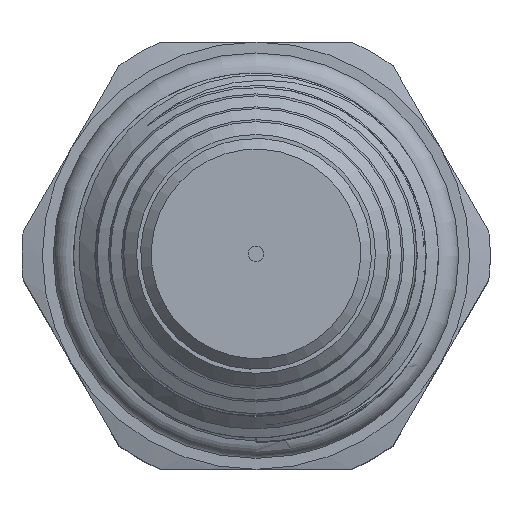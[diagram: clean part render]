
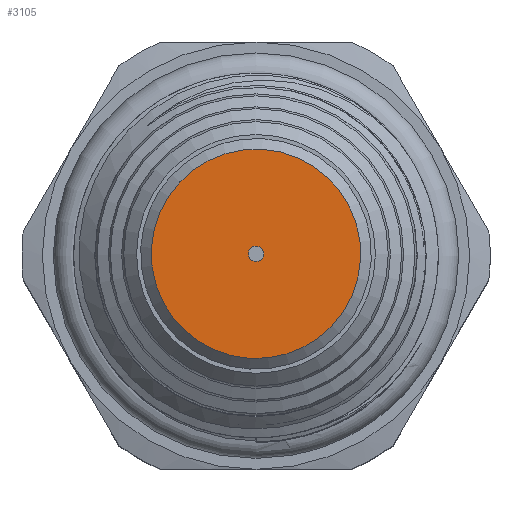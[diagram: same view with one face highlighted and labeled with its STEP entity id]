
A CAD part, top view. The second image highlights one B-rep face of the part: STEP entity #3105.
In plain terms, the highlighted planar face has unit normal (0, 0, 1).
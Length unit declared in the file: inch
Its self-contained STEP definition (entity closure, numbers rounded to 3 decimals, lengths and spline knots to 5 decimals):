
#223=FACE_BOUND('',#931,.T.);
#704=FACE_OUTER_BOUND('',#930,.T.);
#930=EDGE_LOOP('',(#2699));
#931=EDGE_LOOP('',(#2700,#2701));
#1117=CIRCLE('',#3477,0.245);
#1118=CIRCLE('',#3478,0.018);
#1119=CIRCLE('',#3479,0.018);
#1423=VERTEX_POINT('',#11085);
#1424=VERTEX_POINT('',#11087);
#1425=VERTEX_POINT('',#11088);
#1853=EDGE_CURVE('',#1423,#1423,#1117,.T.);
#1854=EDGE_CURVE('',#1424,#1425,#1118,.T.);
#1855=EDGE_CURVE('',#1425,#1424,#1119,.T.);
#2699=ORIENTED_EDGE('',*,*,#1853,.F.);
#2700=ORIENTED_EDGE('',*,*,#1854,.T.);
#2701=ORIENTED_EDGE('',*,*,#1855,.T.);
#2793=PLANE('',#3476);
#3105=ADVANCED_FACE('',(#704,#223),#2793,.T.);
#3476=AXIS2_PLACEMENT_3D('',#11084,#4273,#4274);
#3477=AXIS2_PLACEMENT_3D('',#11086,#4275,#4276);
#3478=AXIS2_PLACEMENT_3D('',#11089,#4277,#4278);
#3479=AXIS2_PLACEMENT_3D('',#11090,#4279,#4280);
#4273=DIRECTION('center_axis',(0.,0.,
1.));
#4274=DIRECTION('ref_axis',(-0.993,-0.116,0.));
#4275=DIRECTION('center_axis',(0.,0.,
-1.));
#4276=DIRECTION('ref_axis',(-0.116,0.993,0.));
#4277=DIRECTION('center_axis',(0.,0.,
-1.));
#4278=DIRECTION('ref_axis',(-0.993,-0.116,0.));
#4279=DIRECTION('center_axis',(0.,0.,
-1.));
#4280=DIRECTION('ref_axis',(-0.993,-0.116,0.));
#11084=CARTESIAN_POINT('Origin',(0.,0.,
3.282));
#11085=CARTESIAN_POINT('',(0.02836,-0.24335,3.282));
#11086=CARTESIAN_POINT('Origin',(0.,0.,
3.282));
#11087=CARTESIAN_POINT('',(-0.01788,-0.00208,3.282));
#11088=CARTESIAN_POINT('',(0.01788,0.00208,3.282));
#11089=CARTESIAN_POINT('Origin',(0.,0.,
3.282));
#11090=CARTESIAN_POINT('Origin',(0.,0.,
3.282));
